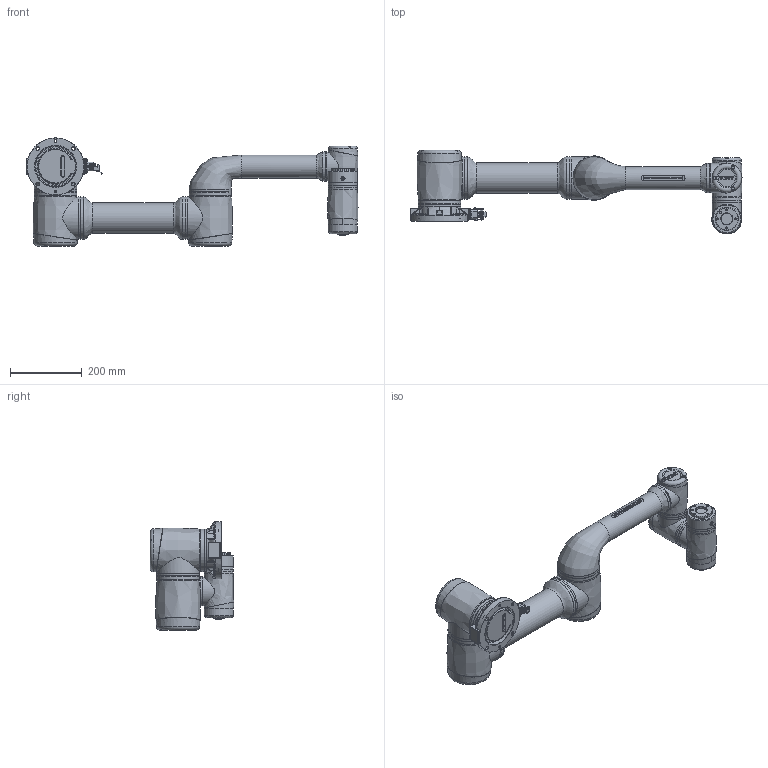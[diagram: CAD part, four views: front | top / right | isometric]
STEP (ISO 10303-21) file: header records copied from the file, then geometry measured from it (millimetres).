
FILE_DESCRIPTION (( 'STEP AP214' ), '1' );
FILE_NAME ('Pro 5.STEP', '2023-10-15T14:35:53', ( '' ), ( '' ), 'SwSTEP 2.0', 'SolidWorks 2016', '' );
FILE_SCHEMA (( 'AUTOMOTIVE_DESIGN' ));
Length unit declared in the file: millimetre
Products named in the file (15): Pro 5; Pro 5 06; Pro 5 00; Pro 5 04; Pro 5 02; Pro 5 05; Pro 5 03; Pro 5 01
Assembly tree (7 placements, depth 2):
  Pro 5
    Pro 5 00
    Pro 5 01
    Pro 5 02
    Pro 5 03
    Pro 5 04
    Pro 5 05
    Pro 5 06
  Pro 5 04
  Pro 5 06
  Pro 5 03
  Pro 5 02
Bounding box: 922.68 x 232.48 x 300.65 mm (x, y, z)
Volume: 12399524.8 mm3; surface area: 772084 mm2
Topology: 19 solids, 41 shells, 3596 faces, 9511 edges, 6223 vertices
Faces by surface type: plane 2164, bspline 665, cylinder 440, cone 270, torus 53, sphere 4
Full cylindrical faces by diameter (mm): 0.8 x8, 0.9 x10, 1.6 x2, 1.7 x10, 1.8 x2, 2.5 x6, 3 x8, 3.1 x2, 3.2 x3, 3.4 x2, 3.5 x2, 4.2 x1, 4.8 x2, 5 x4, 5.2 x10, 5.5 x2, 5.8 x1, 6 x1, 6.2 x9, 8 x9, 9 x6, 9.58 x1, 10.5 x1, 14 x2, 16.2 x4, 24.8 x1, 30 x1, 31.5 x1, 63 x1, 64 x1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
Entity records: 186689 total; most frequent: CARTESIAN_POINT 75781, ORIENTED_EDGE 18060, DIRECTION 12961, EDGE_CURVE 9030, VERTEX_POINT 6087, LINE 5273, VECTOR 5273, EDGE_LOOP 4217
